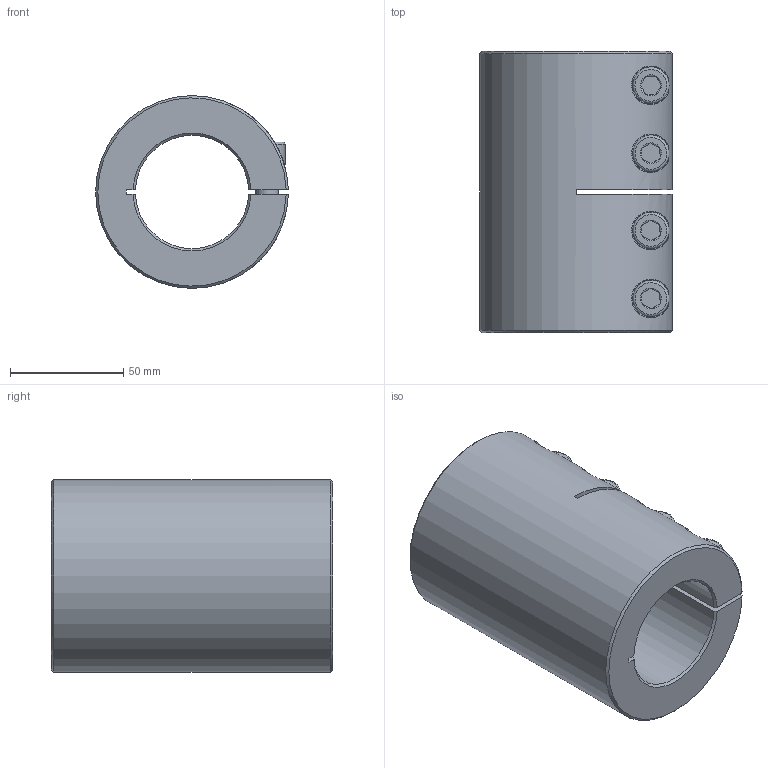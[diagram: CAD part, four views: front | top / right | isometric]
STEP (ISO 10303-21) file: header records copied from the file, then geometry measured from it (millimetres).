
FILE_DESCRIPTION( ( 'Unknown' ), '1' );
FILE_NAME( 'K:/Konstruktion/Fertigungszeichnungen/Schalenkupplung/KBST/KBST-50.stp', 'Unknown', ( 'Unknown' ), ( 'Unknown' ), 'PSStep 16.0.42', 'Unknown', ' ' );
FILE_SCHEMA( ( 'AUTOMOTIVE_DESIGN { 1 0 10303 214 1 1 1 1 }' ) );
Length unit declared in the file: millimetre
Products named in the file (3): Assem1; ISO EN DIN 4762 M10x30; KBST-50
Assembly tree (5 placements, depth 2):
  Assem1
    ISO EN DIN 4762 M10x30  x4
    KBST-50
Bounding box: 84.99 x 124 x 85 mm (x, y, z)
Volume: 445070.8 mm3; surface area: 80351.4 mm2
Topology: 5 solids, 5 shells, 140 faces, 278 edges, 168 vertices
Faces by surface type: plane 67, cone 34, cylinder 31, torus 8
Full cylindrical faces by diameter (mm): 8.376 x4, 9 x4, 10 x8, 10.5 x4, 16 x4
Entity records: 2968 total; most frequent: CARTESIAN_POINT 965, DIRECTION 298, ORIENTED_EDGE 258, EDGE_CURVE 129, AXIS2_PLACEMENT_3D 124, EDGE_LOOP 104, VERTEX_POINT 91, FACE_OUTER_BOUND 79
